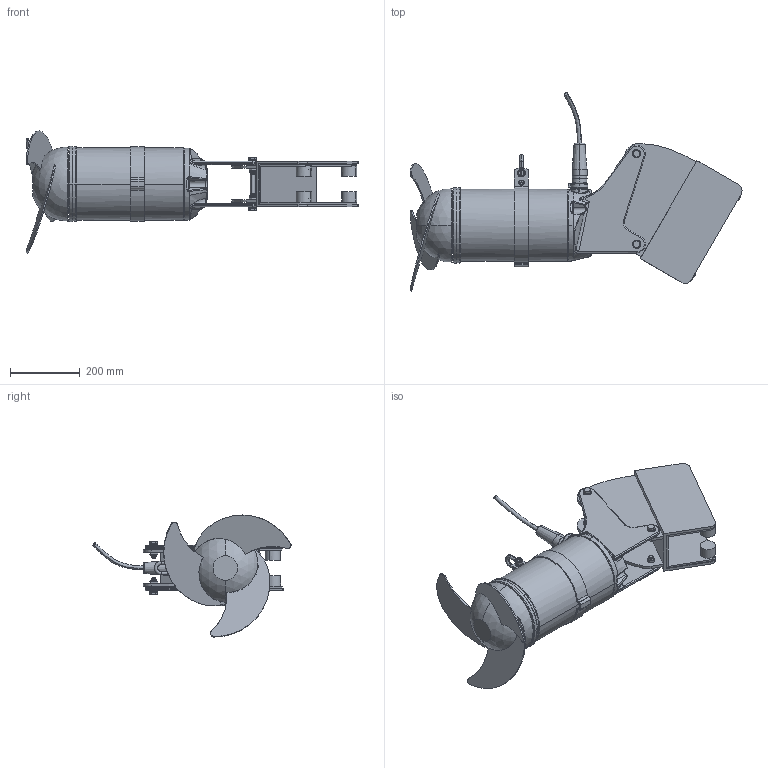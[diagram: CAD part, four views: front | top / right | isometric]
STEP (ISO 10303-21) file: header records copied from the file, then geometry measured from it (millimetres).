
FILE_DESCRIPTION (( 'STEP AP214' ), '1' );
FILE_NAME ('XRW400 Vkt.100 with vertical angle adjustment -30°_MSD.STEP', '2017-03-29T09:35:54', ( '' ), ( '' ), 'SwSTEP 2.0', 'SolidWorks 2017', '' );
FILE_SCHEMA (( 'AUTOMOTIVE_DESIGN' ));
Length unit declared in the file: millimetre
Products named in the file (1): XRW400 Vkt.100 with vertical angle adjustment -30°_MSD
Bounding box: 954.23 x 569.74 x 350.95 mm (x, y, z)
Volume: 19572691.5 mm3; surface area: 1315410.1 mm2
Topology: 1 solids, 1 shells, 984 faces, 2397 edges, 1460 vertices
Faces by surface type: plane 284, cylinder 235, bspline 200, cone 119, torus 118, sphere 28
Entity records: 51855 total; most frequent: CARTESIAN_POINT 19333, ORIENTED_EDGE 4750, DIRECTION 4271, EDGE_CURVE 2375, AXIS2_PLACEMENT_3D 1782, VERTEX_POINT 1458, EDGE_LOOP 1071, CIRCLE 997
